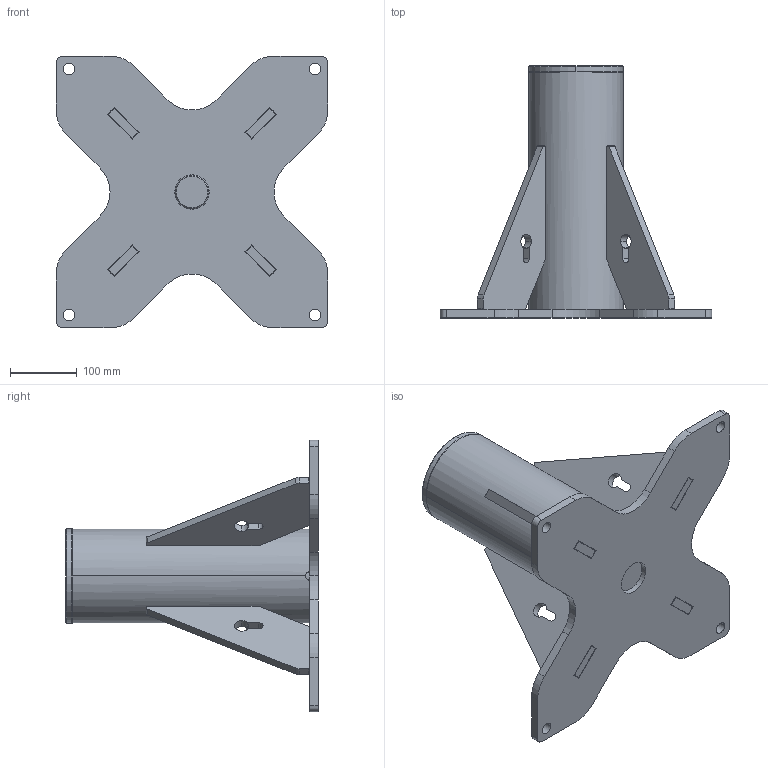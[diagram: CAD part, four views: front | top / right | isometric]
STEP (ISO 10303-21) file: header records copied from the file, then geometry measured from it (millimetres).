
FILE_DESCRIPTION (( 'STEP AP203' ), '1' );
FILE_NAME ('OZPED4.STEP', '2022-03-02T20:35:55', ( '' ), ( '' ), 'SwSTEP 2.0', 'SolidWorks 2021', '' );
FILE_SCHEMA (( 'CONFIG_CONTROL_DESIGN' ));
Length unit declared in the file: inch
Products named in the file (7): SXB2005; SXB2000; SXB2002; SXB2003; SXB2004; SXB2001; OZPED4
Assembly tree (9 placements, depth 3):
  OZPED4
    SXB2000
      SXB2001
      SXB2003
      SXB2002  x4
      SXB2004
    SXB2005
Bounding box: 406.4 x 377.82 x 406.4 mm (x, y, z)
Volume: 3855061.7 mm3; surface area: 869750.6 mm2
Topology: 8 solids, 8 shells, 229 faces, 607 edges, 396 vertices
Faces by surface type: cylinder 107, plane 100, cone 16, torus 6
Entity records: 5487 total; most frequent: CARTESIAN_POINT 952, DIRECTION 824, ORIENTED_EDGE 746, EDGE_CURVE 373, AXIS2_PLACEMENT_3D 304, VERTEX_POINT 240, VECTOR 216, LINE 216
